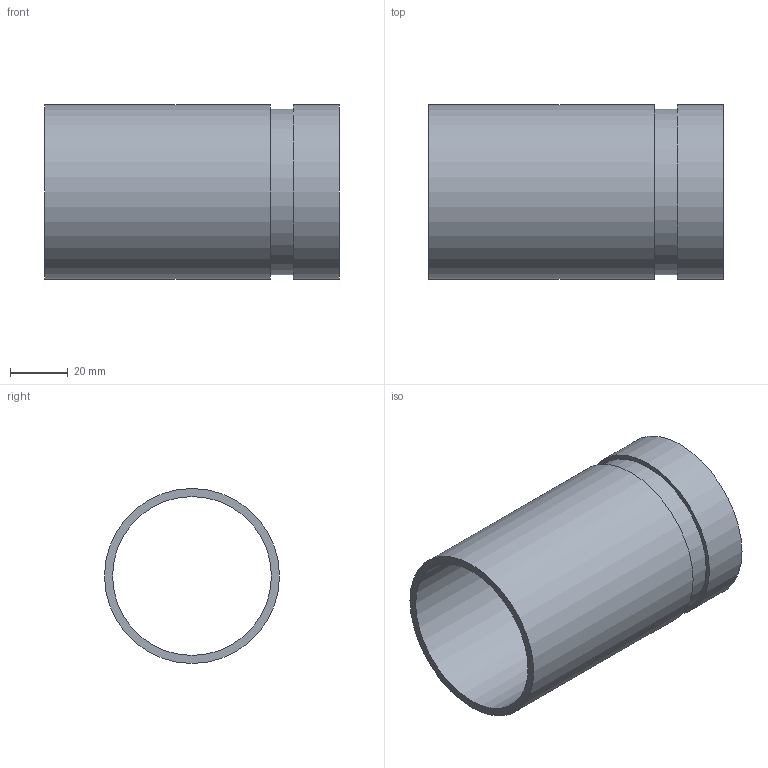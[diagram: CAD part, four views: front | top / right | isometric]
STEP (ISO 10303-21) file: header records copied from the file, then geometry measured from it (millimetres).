
FILE_DESCRIPTION(/* description */ ('VIC TRANSITION NIPPLE STYLE P577 (G X T)','CAx-IF Rec.Pracs.---Representation and Presentation of Product Manufacturing Information (PMI)---4.0---2014-10-13'),/* implementation_level */ '2;1');
FILE_NAME(/* name */ 'C:\Users\kkamble\AppData\Roaming\Autodesk\ApplicationPlugins\Back Up\Victaulic_SS-Vic-Press-TP 316_Nipple Transition_Style P577 (VPxPE)\Victaulic_SS-Vic-Press-TP 316_Nipple Transition_Style P577 (VPxPE)_2 (50).stp',/* time_stamp */ '2020-08-14T14:08:30+06:00',/* author */ ('cgray'),/* organization */ ('Victaulic'),/* preprocessor_version */ 'ST-DEVELOPER v17.2',/* originating_system */ 'Autodesk Inventor 2019',/* authorisation */ '');
FILE_SCHEMA (('AP242_MANAGED_MODEL_BASED_3D_ENGINEERING_MIM_LF { 1 0 10303 442 1 1 4 }'));
Length unit declared in the file: inch
Products named in the file (1): P577-02.0
Bounding box: 101.6 x 60.33 x 60.33 mm (x, y, z)
Volume: 48533.5 mm3; surface area: 38250.2 mm2
Topology: 1 solids, 1 shells, 8 faces, 20 edges, 16 vertices
Faces by surface type: cylinder 4, plane 4
Full cylindrical faces by diameter (mm): 54.788 x1, 57.15 x1, 60.325 x2
Entity records: 408 total; most frequent: DIRECTION 80, CARTESIAN_POINT 62, ORIENTED_EDGE 40, AXIS2_PLACEMENT_3D 38, EDGE_CURVE 20, CIRCLE 16, VERTEX_POINT 16, EDGE_LOOP 12
